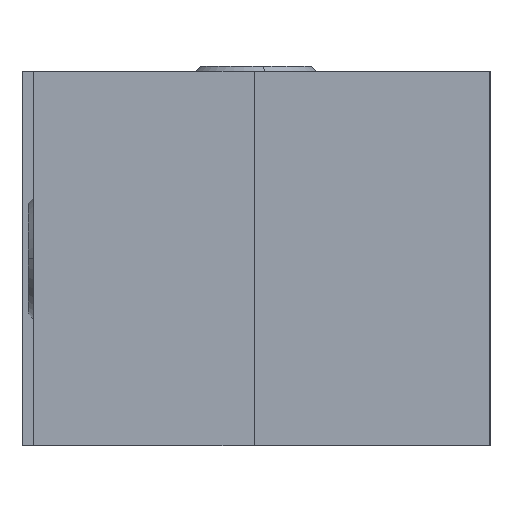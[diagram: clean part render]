
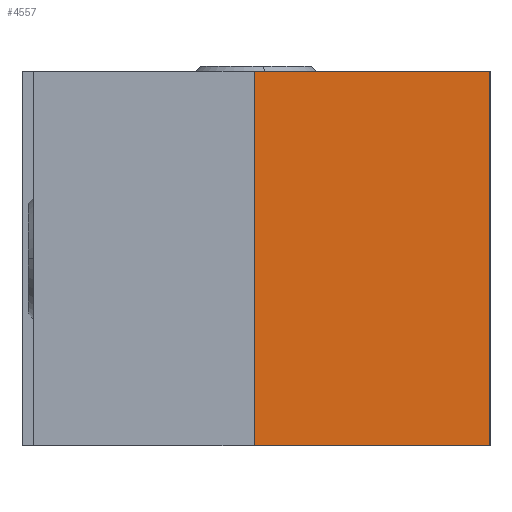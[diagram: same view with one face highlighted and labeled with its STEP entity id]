
A CAD part, left-side view. The second image highlights one B-rep face of the part: STEP entity #4557.
In plain terms, the highlighted planar face has unit normal (-1, 0, 0).
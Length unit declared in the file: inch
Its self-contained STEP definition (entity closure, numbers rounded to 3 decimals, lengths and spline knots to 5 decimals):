
#4557 = ADVANCED_FACE ( 'NONE', ( #20996 ), #42400, .F. ) ;
#7640 = CARTESIAN_POINT ( 'NONE',  ( 0., 0., 1. ) ) ;
#7641 = DIRECTION ( 'NONE',  ( 0., 0., -1. ) ) ;
#7673 = CARTESIAN_POINT ( 'NONE',  ( 0., 0.63, 0. ) ) ;
#7674 = DIRECTION ( 'NONE',  ( 0., -1., 0. ) ) ;
#7675 = CARTESIAN_POINT ( 'NONE',  ( 0., 0.63, 1. ) ) ;
#7676 = DIRECTION ( 'NONE',  ( 0., 0., -1. ) ) ;
#7703 = CARTESIAN_POINT ( 'NONE',  ( 0., 0.63, 1. ) ) ;
#7704 = DIRECTION ( 'NONE',  ( 0., -1., 0. ) ) ;
#8365 = LINE ( 'NONE', #7640, #8368 ) ;
#8368 = VECTOR ( 'NONE', #7641, 39.37008 ) ;
#8423 = LINE ( 'NONE', #7673, #8428 ) ;
#8428 = VECTOR ( 'NONE', #7674, 39.37008 ) ;
#8430 = LINE ( 'NONE', #7675, #8432 ) ;
#8432 = VECTOR ( 'NONE', #7676, 39.37008 ) ;
#8482 = LINE ( 'NONE', #7703, #8484 ) ;
#8484 = VECTOR ( 'NONE', #7704, 39.37008 ) ;
#15151 = VERTEX_POINT ( 'NONE', #23602 ) ;
#15296 = VERTEX_POINT ( 'NONE', #23438 ) ;
#15336 = VERTEX_POINT ( 'NONE', #23396 ) ;
#16238 = AXIS2_PLACEMENT_3D ( 'NONE', #42399, #42398, #42397 ) ;
#19306 = EDGE_LOOP ( 'NONE', ( #30416, #30417, #30418, #30419 ) ) ;
#20996 = FACE_OUTER_BOUND ( 'NONE', #19306, .T. ) ;
#23396 = CARTESIAN_POINT ( 'NONE',  ( 0., 0., 0. ) ) ;
#23438 = CARTESIAN_POINT ( 'NONE',  ( 0., 0.63, 0. ) ) ;
#23602 = CARTESIAN_POINT ( 'NONE',  ( 0., 0., 1. ) ) ;
#30416 = ORIENTED_EDGE ( 'NONE', *, *, #40256, .T. ) ;
#30417 = ORIENTED_EDGE ( 'NONE', *, *, #40241, .F. ) ;
#30418 = ORIENTED_EDGE ( 'NONE', *, *, #40270, .F. ) ;
#30419 = ORIENTED_EDGE ( 'NONE', *, *, #40257, .T. ) ;
#35717 = VERTEX_POINT ( 'NONE', #42562 ) ;
#40241 = EDGE_CURVE ( 'NONE', #15151, #15336, #8365, .T. ) ;
#40256 = EDGE_CURVE ( 'NONE', #15296, #15336, #8423, .T. ) ;
#40257 = EDGE_CURVE ( 'NONE', #35717, #15296, #8430, .T. ) ;
#40270 = EDGE_CURVE ( 'NONE', #35717, #15151, #8482, .T. ) ;
#42397 = DIRECTION ( 'NONE',  ( 0., 1., 0. ) ) ;
#42398 = DIRECTION ( 'NONE',  ( 1., 0., 0. ) ) ;
#42399 = CARTESIAN_POINT ( 'NONE',  ( 0., 0.63, 1. ) ) ;
#42400 = PLANE ( 'NONE',  #16238 ) ;
#42562 = CARTESIAN_POINT ( 'NONE',  ( 0., 0.63, 1. ) ) ;
